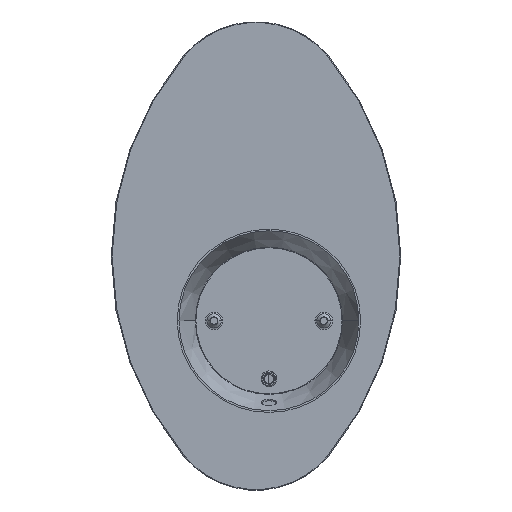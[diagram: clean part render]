
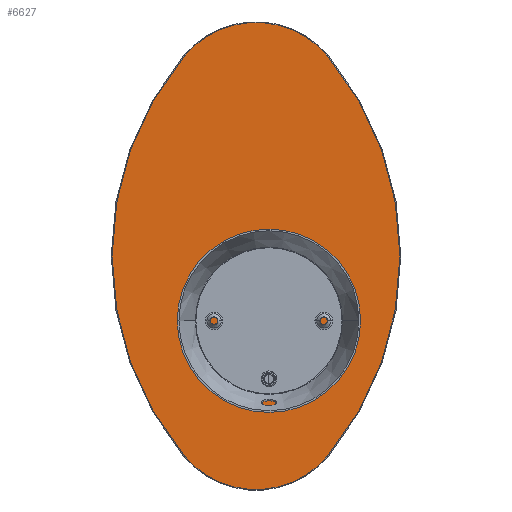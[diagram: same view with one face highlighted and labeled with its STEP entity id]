
A CAD part, top view. The second image highlights one B-rep face of the part: STEP entity #6627.
In plain terms, the highlighted planar face has unit normal (0, 0, 1).
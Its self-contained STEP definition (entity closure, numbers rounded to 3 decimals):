
#446 = DIRECTION ( 'NONE',  ( 0., 0., 1. ) ) ;
#932 = VERTEX_POINT ( 'NONE', #1181 ) ;
#954 = CARTESIAN_POINT ( 'NONE',  ( -29.45, 247.251, -55.476 ) ) ;
#1049 = CIRCLE ( 'NONE', #7258, 59.5 ) ;
#1181 = CARTESIAN_POINT ( 'NONE',  ( 18.804, 119.714, -55.476 ) ) ;
#1191 = CARTESIAN_POINT ( 'NONE',  ( 13.804, 119.714, -55.476 ) ) ;
#1256 = AXIS2_PLACEMENT_3D ( 'NONE', #5755, #3083, #3989 ) ;
#1269 = VERTEX_POINT ( 'NONE', #4679 ) ;
#1542 = CARTESIAN_POINT ( 'NONE',  ( 62.058, 247.251, -55.476 ) ) ;
#1566 = ORIENTED_EDGE ( 'NONE', *, *, #8245, .T. ) ;
#1925 = VERTEX_POINT ( 'NONE', #954 ) ;
#2030 = AXIS2_PLACEMENT_3D ( 'NONE', #5664, #9045, #10748 ) ;
#2093 = AXIS2_PLACEMENT_3D ( 'NONE', #2139, #446, #7214 ) ;
#2120 = AXIS2_PLACEMENT_3D ( 'NONE', #9561, #6981, #5458 ) ;
#2139 = CARTESIAN_POINT ( 'NONE',  ( 16.304, 119.714, -55.476 ) ) ;
#2837 = DIRECTION ( 'NONE',  ( 0., 0., 1. ) ) ;
#2979 = EDGE_CURVE ( 'NONE', #10575, #932, #4752, .T. ) ;
#3008 = EDGE_CURVE ( 'NONE', #9860, #5920, #4244, .T. ) ;
#3083 = DIRECTION ( 'NONE',  ( 0., 0., 1. ) ) ;
#3206 = DIRECTION ( 'NONE',  ( 0., 0., 1. ) ) ;
#3213 = ORIENTED_EDGE ( 'NONE', *, *, #2979, .F. ) ;
#3463 = CARTESIAN_POINT ( 'NONE',  ( 108.148, 119.714, -55.476 ) ) ;
#3489 = AXIS2_PLACEMENT_3D ( 'NONE', #9975, #3206, #4780 ) ;
#3492 = ORIENTED_EDGE ( 'NONE', *, *, #9581, .F. ) ;
#3606 = FACE_BOUND ( 'NONE', #3997, .T. ) ;
#3876 = AXIS2_PLACEMENT_3D ( 'NONE', #10622, #4503, #6427 ) ;
#3984 = CIRCLE ( 'NONE', #9477, 199.5 ) ;
#3989 = DIRECTION ( 'NONE',  ( 1., 0., 0. ) ) ;
#3997 = EDGE_LOOP ( 'NONE', ( #3213, #3492 ) ) ;
#4244 = CIRCLE ( 'NONE', #3876, 199.5 ) ;
#4503 = DIRECTION ( 'NONE',  ( 0., 0., 1. ) ) ;
#4611 = ORIENTED_EDGE ( 'NONE', *, *, #7177, .T. ) ;
#4615 = FACE_OUTER_BOUND ( 'NONE', #6421, .T. ) ;
#4679 = CARTESIAN_POINT ( 'NONE',  ( -29.45, -7.824, -55.476 ) ) ;
#4708 = EDGE_CURVE ( 'NONE', #10572, #9860, #3984, .T. ) ;
#4752 = CIRCLE ( 'NONE', #2093, 2.5 ) ;
#4780 = DIRECTION ( 'NONE',  ( 1., 0., 0. ) ) ;
#4926 = ORIENTED_EDGE ( 'NONE', *, *, #5047, .T. ) ;
#5047 = EDGE_CURVE ( 'NONE', #1269, #10572, #9818, .T. ) ;
#5398 = DIRECTION ( 'NONE',  ( 1., 0., 0. ) ) ;
#5458 = DIRECTION ( 'NONE',  ( 1., 0., 0. ) ) ;
#5513 = DIRECTION ( 'NONE',  ( 0., 0., 1. ) ) ;
#5536 = ORIENTED_EDGE ( 'NONE', *, *, #4708, .T. ) ;
#5664 = CARTESIAN_POINT ( 'NONE',  ( 16.304, 30.214, -55.476 ) ) ;
#5755 = CARTESIAN_POINT ( 'NONE',  ( 70.132, 164.464, -55.476 ) ) ;
#5920 = VERTEX_POINT ( 'NONE', #1542 ) ;
#6068 = CARTESIAN_POINT ( 'NONE',  ( 16.304, 209.214, -55.476 ) ) ;
#6421 = EDGE_LOOP ( 'NONE', ( #1566, #4611, #4926, #5536, #10052 ) ) ;
#6427 = DIRECTION ( 'NONE',  ( 1., 0., 0. ) ) ;
#6627 = ADVANCED_FACE ( 'NONE', ( #4615, #3606 ), #9748, .T. ) ;
#6981 = DIRECTION ( 'NONE',  ( 0., 0., 1. ) ) ;
#7177 = EDGE_CURVE ( 'NONE', #1925, #1269, #8684, .T. ) ;
#7214 = DIRECTION ( 'NONE',  ( 1., 0., 0. ) ) ;
#7258 = AXIS2_PLACEMENT_3D ( 'NONE', #6068, #2837, #5398 ) ;
#7876 = CARTESIAN_POINT ( 'NONE',  ( -91.352, 119.714, -55.476 ) ) ;
#8245 = EDGE_CURVE ( 'NONE', #5920, #1925, #1049, .T. ) ;
#8684 = CIRCLE ( 'NONE', #2120, 199.5 ) ;
#8749 = CARTESIAN_POINT ( 'NONE',  ( 62.058, -7.824, -55.476 ) ) ;
#9045 = DIRECTION ( 'NONE',  ( 0., 0., 1. ) ) ;
#9477 = AXIS2_PLACEMENT_3D ( 'NONE', #7876, #5513, #9613 ) ;
#9561 = CARTESIAN_POINT ( 'NONE',  ( 123.96, 119.714, -55.476 ) ) ;
#9581 = EDGE_CURVE ( 'NONE', #932, #10575, #10219, .T. ) ;
#9613 = DIRECTION ( 'NONE',  ( 1., 0., 0. ) ) ;
#9748 = PLANE ( 'NONE',  #1256 ) ;
#9818 = CIRCLE ( 'NONE', #2030, 59.5 ) ;
#9860 = VERTEX_POINT ( 'NONE', #3463 ) ;
#9975 = CARTESIAN_POINT ( 'NONE',  ( 16.304, 119.714, -55.476 ) ) ;
#10052 = ORIENTED_EDGE ( 'NONE', *, *, #3008, .T. ) ;
#10219 = CIRCLE ( 'NONE', #3489, 2.5 ) ;
#10572 = VERTEX_POINT ( 'NONE', #8749 ) ;
#10575 = VERTEX_POINT ( 'NONE', #1191 ) ;
#10622 = CARTESIAN_POINT ( 'NONE',  ( -91.352, 119.714, -55.476 ) ) ;
#10748 = DIRECTION ( 'NONE',  ( 1., 0., 0. ) ) ;
